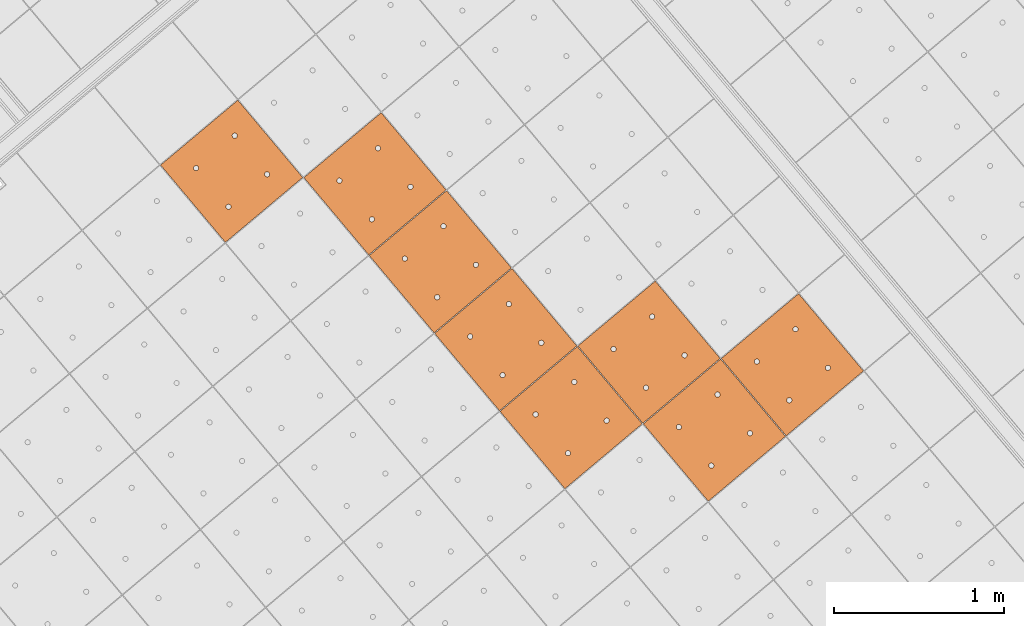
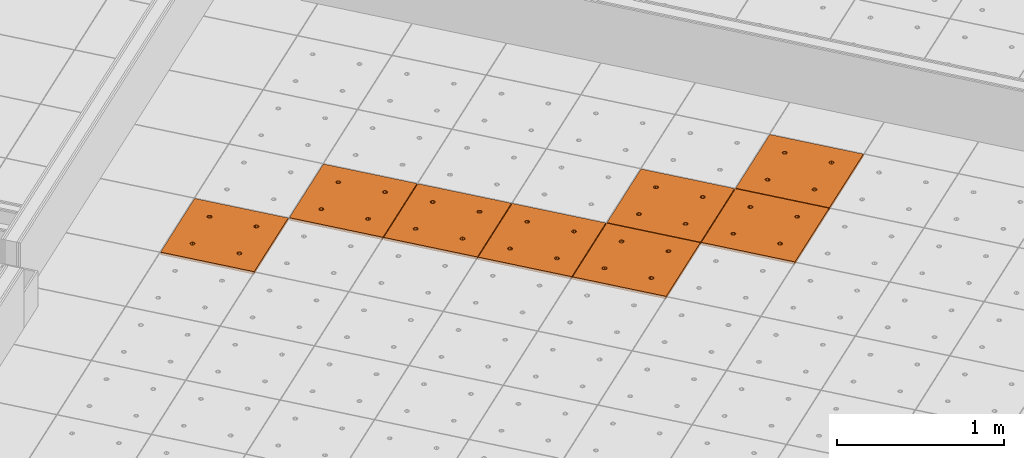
# One storey, part 135 of 338: 8 proxies, 1 element without a shape of its own.
"""IFC2X3 building model written with IfcOpenShell, lengths in millimetres."""

from ifc_helpers import new_model, entity, si_unit, converted_unit, derived_unit, money_unit, direction, frame, origin_with_axes, place, context, subcontext, project, spatial, faceted_brep, source, transform, mapped, material, type_object, type_shapes, element, aggregate, save


model = new_model("IFC2X3")

# Units and contexts
model_context = context("Model", 3, precision=0.01, world=origin_with_axes(), true_north=direction((0.0, 1.0)))
plan_context = context("Plan", 3, precision=0.01, world=origin_with_axes(), true_north=direction((0.0, 1.0)))
body_context = subcontext(model_context, "Body", "Model", "MODEL_VIEW")
ifc_project = project(units=[si_unit("LENGTHUNIT", "METRE", prefix="MILLI"), si_unit("AREAUNIT", "SQUARE_METRE"), si_unit("VOLUMEUNIT", "CUBIC_METRE"), converted_unit("PLANEANGLEUNIT", "DEGREE", entity("IfcPlaneAngleMeasure", 0.0174532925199), si_unit("PLANEANGLEUNIT", "RADIAN"), dimensions=[0, 0, 0, 0, 0, 0, 0]), money_unit("EUR"), converted_unit("TIMEUNIT", "Year", entity("IfcTimeMeasure", 31556926.0), si_unit("TIMEUNIT", "SECOND"), dimensions=[0, 0, 1, 0, 0, 0, 0]), si_unit("MASSUNIT", "GRAM", prefix="KILO"), si_unit("THERMODYNAMICTEMPERATUREUNIT", "DEGREE_CELSIUS"), si_unit("LUMINOUSINTENSITYUNIT", "LUMEN"), si_unit("ENERGYUNIT", "JOULE", prefix="MEGA"), derived_unit("THERMALCONDUCTANCEUNIT", [(si_unit("POWERUNIT", "WATT"), 1), (si_unit("LENGTHUNIT", "METRE"), -1), (si_unit("THERMODYNAMICTEMPERATUREUNIT", "KELVIN"), -1)]), derived_unit("SPECIFICHEATCAPACITYUNIT", [(si_unit("ENERGYUNIT", "JOULE"), 1), (si_unit("MASSUNIT", "GRAM", prefix="KILO"), -1), (si_unit("THERMODYNAMICTEMPERATUREUNIT", "KELVIN"), -1)]), derived_unit("MASSDENSITYUNIT", [(si_unit("MASSUNIT", "GRAM", prefix="KILO"), 1), (si_unit("VOLUMEUNIT", "CUBIC_METRE"), -1)])], contexts=[model_context, plan_context])

# Site, building, storey
site_placement = place(None, origin_with_axes())
site = spatial("IfcSite", under=ifc_project, at=site_placement, Name="Fortuinstraat Woensdrecht", CompositionType="ELEMENT")
building_placement = place(site_placement, origin_with_axes())
building = spatial("IfcBuilding", under=site, at=building_placement, Name="IKC Fortuna", CompositionType="ELEMENT")
storey_placement = place(building_placement, origin_with_axes())
storey = spatial("IfcBuildingStorey", under=building, at=storey_placement, Name="00 begane grond", CompositionType="ELEMENT", Elevation=0.0)

# Covering, proxies
covering_type = type_object("IfcCoveringType", Name="Curtain Wall Type", PredefinedType="CEILING")
covering_placement = place(storey_placement, frame((15150.6418133, -6622.13986243, 4660.0), z_axis=(0.0, 0.0, 1.0), x_axis=(1.0, 0.0, 0.0)))
covering = element("IfcCovering", 1, at=covering_placement, inside=storey, type_object=covering_type, Name="45_Plafondafwerking_P01", PredefinedType="CEILING")
ifc_material = material(Name="Gipsplaat")
building_element_proxy_type = type_object("IfcBuildingElementProxyType", Name="Main Panel 600 x 600 x 20", PredefinedType="NOTDEFINED")
shared_shape = source(origin_with_axes(), body_context, "Body", "Brep", [
    faceted_brep([(2.49999999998, 2.49999999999, -10.0), (300.0, 2.49999999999, -10.0), (300.0, 2.49999999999, 10.0), (2.49999999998, 2.49999999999, 10.0), (2.49999999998, 300.0, -10.0), (2.49999999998, 597.5, -10.0), (300.0, 597.5, -10.0), (597.5, 597.5, -10.0), (597.5, 300.0, -10.0), (597.5, 2.49999999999, -10.0), (166.25, 450.06232995, -10.0), (165.79423259, 452.64711538, -10.0), (164.896546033, 455.11348892, -10.0), (163.58421608, 457.38651108, -10.0), (161.897117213, 459.39711721, -10.0), (159.886511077, 461.08421608, -10.0), (157.613488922, 462.39654603, -10.0), (155.147115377, 463.29423259, -10.0), (152.562329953, 463.75, -10.0), (149.937670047, 463.75, -10.0), (147.352884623, 463.29423259, -10.0), (144.886511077, 462.39654603, -10.0), (142.613488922, 461.08421608, -10.0), (140.602882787, 459.39711721, -10.0), (138.91578392, 457.38651108, -10.0), (137.603453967, 455.11348892, -10.0), (136.705767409, 452.64711538, -10.0), (136.25, 450.06232995, -10.0), (136.25, 448.75, -10.0), (136.25, 447.43767005, -10.0), (136.705767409, 444.85288462, -10.0), (137.603453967, 442.38651108, -10.0), (138.91578392, 440.11348892, -10.0), (140.602882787, 438.10288279, -10.0), (142.613488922, 436.41578392, -10.0), (144.886511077, 435.10345397, -10.0), (147.352884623, 434.20576741, -10.0), (149.937670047, 433.75, -10.0), (152.562329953, 433.75, -10.0), (155.147115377, 434.20576741, -10.0), (157.613488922, 435.10345397, -10.0), (159.886511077, 436.41578392, -10.0), (161.897117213, 438.10288279, -10.0), (163.58421608, 440.11348892, -10.0), (164.896546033, 442.38651108, -10.0), (165.79423259, 444.85288462, -10.0), (166.25, 447.43767005, -10.0), (463.75, 450.06232995, -10.0), (463.29423259, 452.64711538, -10.0), (462.396546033, 455.11348892, -10.0), (461.08421608, 457.38651108, -10.0), (459.397117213, 459.39711721, -10.0), (457.386511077, 461.08421608, -10.0), (455.113488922, 462.39654603, -10.0), (452.647115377, 463.29423259, -10.0), (450.062329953, 463.75, -10.0), (447.437670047, 463.75, -10.0), (444.852884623, 463.29423259, -10.0), (442.386511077, 462.39654603, -10.0), (440.113488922, 461.08421608, -10.0), (438.102882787, 459.39711721, -10.0), (436.41578392, 457.38651108, -10.0), (435.103453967, 455.11348892, -10.0), (434.205767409, 452.64711538, -10.0), (433.75, 450.06232995, -10.0), (433.75, 448.75, -10.0), (433.75, 447.43767005, -10.0), (434.205767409, 444.85288462, -10.0), (435.103453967, 442.38651108, -10.0), (436.41578392, 440.11348892, -10.0), (438.102882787, 438.10288279, -10.0), (440.113488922, 436.41578392, -10.0), (442.386511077, 435.10345397, -10.0), (444.852884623, 434.20576741, -10.0), (447.437670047, 433.75, -10.0), (450.062329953, 433.75, -10.0), (452.647115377, 434.20576741, -10.0), (455.113488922, 435.10345397, -10.0), (457.386511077, 436.41578392, -10.0), (459.397117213, 438.10288279, -10.0), (461.08421608, 440.11348892, -10.0), (462.396546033, 442.38651108, -10.0), (463.29423259, 444.85288462, -10.0), (463.75, 447.43767005, -10.0), (463.75, 152.56232995, -10.0), (463.29423259, 155.14711538, -10.0), (462.396546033, 157.61348892, -10.0), (461.08421608, 159.88651108, -10.0), (459.397117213, 161.89711721, -10.0), (457.386511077, 163.58421608, -10.0), (455.113488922, 164.89654603, -10.0), (452.647115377, 165.79423259, -10.0), (450.062329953, 166.25, -10.0), (447.437670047, 166.25, -10.0), (444.852884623, 165.79423259, -10.0), (442.386511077, 164.89654603, -10.0), (440.113488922, 163.58421608, -10.0), (438.102882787, 161.89711721, -10.0), (436.41578392, 159.88651108, -10.0), (435.103453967, 157.61348892, -10.0), (434.205767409, 155.14711538, -10.0), (433.75, 152.56232995, -10.0), (433.75, 151.25, -10.0), (433.75, 149.93767005, -10.0), (434.205767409, 147.35288462, -10.0), (435.103453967, 144.88651108, -10.0), (436.41578392, 142.61348892, -10.0), (438.102882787, 140.60288279, -10.0), (440.113488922, 138.91578392, -10.0), (442.386511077, 137.60345397, -10.0), (444.852884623, 136.70576741, -10.0), (447.437670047, 136.25, -10.0), (450.062329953, 136.25, -10.0), (452.647115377, 136.70576741, -10.0), (455.113488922, 137.60345397, -10.0), (457.386511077, 138.91578392, -10.0), (459.397117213, 140.60288279, -10.0), (461.08421608, 142.61348892, -10.0), (462.396546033, 144.88651108, -10.0), (463.29423259, 147.35288462, -10.0), (463.75, 149.93767005, -10.0), (166.25, 152.56232995, -10.0), (165.79423259, 155.14711538, -10.0), (164.896546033, 157.61348892, -10.0), (163.58421608, 159.88651108, -10.0), (161.897117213, 161.89711721, -10.0), (159.886511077, 163.58421608, -10.0), (157.613488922, 164.89654603, -10.0), (155.147115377, 165.79423259, -10.0), (152.562329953, 166.25, -10.0), (149.937670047, 166.25, -10.0), (147.352884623, 165.79423259, -10.0), (144.886511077, 164.89654603, -10.0), (142.613488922, 163.58421608, -10.0), (140.602882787, 161.89711721, -10.0), (138.91578392, 159.88651108, -10.0), (137.603453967, 157.61348892, -10.0), (136.705767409, 155.14711538, -10.0), (136.25, 152.56232995, -10.0), (136.25, 151.25, -10.0), (136.25, 149.93767005, -10.0), (136.705767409, 147.35288462, -10.0), (137.603453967, 144.88651108, -10.0), (138.91578392, 142.61348892, -10.0), (140.602882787, 140.60288279, -10.0), (142.613488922, 138.91578392, -10.0), (144.886511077, 137.60345397, -10.0), (147.352884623, 136.70576741, -10.0), (149.937670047, 136.25, -10.0), (152.562329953, 136.25, -10.0), (155.147115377, 136.70576741, -10.0), (157.613488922, 137.60345397, -10.0), (159.886511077, 138.91578392, -10.0), (161.897117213, 140.60288279, -10.0), (163.58421608, 142.61348892, -10.0), (164.896546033, 144.88651108, -10.0), (165.79423259, 147.35288462, -10.0), (166.25, 149.93767005, -10.0), (597.5, 2.49999999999, 10.0), (597.5, 300.0, 10.0), (597.5, 597.5, 10.0), (300.0, 597.5, 10.0), (2.49999999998, 597.5, 10.0), (2.49999999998, 300.0, 10.0), (166.25, 450.06232995, 10.0), (166.25, 447.43767005, 10.0), (165.79423259, 444.85288462, 10.0), (164.896546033, 442.38651108, 10.0), (163.58421608, 440.11348892, 10.0), (161.897117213, 438.10288279, 10.0), (159.886511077, 436.41578392, 10.0), (157.613488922, 435.10345397, 10.0), (155.147115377, 434.20576741, 10.0), (152.562329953, 433.75, 10.0), (149.937670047, 433.75, 10.0), (147.352884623, 434.20576741, 10.0), (144.886511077, 435.10345397, 10.0), (142.613488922, 436.41578392, 10.0), (140.602882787, 438.10288279, 10.0), (138.91578392, 440.11348892, 10.0), (137.603453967, 442.38651108, 10.0), (136.705767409, 444.85288462, 10.0), (136.25, 447.43767005, 10.0), (136.25, 448.75, 10.0), (136.25, 450.06232995, 10.0), (136.705767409, 452.64711538, 10.0), (137.603453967, 455.11348892, 10.0), (138.91578392, 457.38651108, 10.0), (140.602882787, 459.39711721, 10.0), (142.613488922, 461.08421608, 10.0), (144.886511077, 462.39654603, 10.0), (147.352884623, 463.29423259, 10.0), (149.937670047, 463.75, 10.0), (152.562329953, 463.75, 10.0), (155.147115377, 463.29423259, 10.0), (157.613488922, 462.39654603, 10.0), (159.886511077, 461.08421608, 10.0), (161.897117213, 459.39711721, 10.0), (163.58421608, 457.38651108, 10.0), (164.896546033, 455.11348892, 10.0), (165.79423259, 452.64711538, 10.0), (463.75, 450.06232995, 10.0), (463.75, 447.43767005, 10.0), (463.29423259, 444.85288462, 10.0), (462.396546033, 442.38651108, 10.0), (461.08421608, 440.11348892, 10.0), (459.397117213, 438.10288279, 10.0), (457.386511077, 436.41578392, 10.0), (455.113488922, 435.10345397, 10.0), (452.647115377, 434.20576741, 10.0), (450.062329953, 433.75, 10.0), (447.437670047, 433.75, 10.0), (444.852884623, 434.20576741, 10.0), (442.386511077, 435.10345397, 10.0), (440.113488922, 436.41578392, 10.0), (438.102882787, 438.10288279, 10.0), (436.41578392, 440.11348892, 10.0), (435.103453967, 442.38651108, 10.0), (434.205767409, 444.85288462, 10.0), (433.75, 447.43767005, 10.0), (433.75, 448.75, 10.0), (433.75, 450.06232995, 10.0), (434.205767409, 452.64711538, 10.0), (435.103453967, 455.11348892, 10.0), (436.41578392, 457.38651108, 10.0), (438.102882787, 459.39711721, 10.0), (440.113488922, 461.08421608, 10.0), (442.386511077, 462.39654603, 10.0), (444.852884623, 463.29423259, 10.0), (447.437670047, 463.75, 10.0), (450.062329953, 463.75, 10.0), (452.647115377, 463.29423259, 10.0), (455.113488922, 462.39654603, 10.0), (457.386511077, 461.08421608, 10.0), (459.397117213, 459.39711721, 10.0), (461.08421608, 457.38651108, 10.0), (462.396546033, 455.11348892, 10.0), (463.29423259, 452.64711538, 10.0), (463.75, 152.56232995, 10.0), (463.75, 149.93767005, 10.0), (463.29423259, 147.35288462, 10.0), (462.396546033, 144.88651108, 10.0), (461.08421608, 142.61348892, 10.0), (459.397117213, 140.60288279, 10.0), (457.386511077, 138.91578392, 10.0), (455.113488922, 137.60345397, 10.0), (452.647115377, 136.70576741, 10.0), (450.062329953, 136.25, 10.0), (447.437670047, 136.25, 10.0), (444.852884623, 136.70576741, 10.0), (442.386511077, 137.60345397, 10.0), (440.113488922, 138.91578392, 10.0), (438.102882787, 140.60288279, 10.0), (436.41578392, 142.61348892, 10.0), (435.103453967, 144.88651108, 10.0), (434.205767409, 147.35288462, 10.0), (433.75, 149.93767005, 10.0), (433.75, 151.25, 10.0), (433.75, 152.56232995, 10.0), (434.205767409, 155.14711538, 10.0), (435.103453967, 157.61348892, 10.0), (436.41578392, 159.88651108, 10.0), (438.102882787, 161.89711721, 10.0), (440.113488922, 163.58421608, 10.0), (442.386511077, 164.89654603, 10.0), (444.852884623, 165.79423259, 10.0), (447.437670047, 166.25, 10.0), (450.062329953, 166.25, 10.0), (452.647115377, 165.79423259, 10.0), (455.113488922, 164.89654603, 10.0), (457.386511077, 163.58421608, 10.0), (459.397117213, 161.89711721, 10.0), (461.08421608, 159.88651108, 10.0), (462.396546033, 157.61348892, 10.0), (463.29423259, 155.14711538, 10.0), (166.25, 152.56232995, 10.0), (166.25, 149.93767005, 10.0), (165.79423259, 147.35288462, 10.0), (164.896546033, 144.88651108, 10.0), (163.58421608, 142.61348892, 10.0), (161.897117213, 140.60288279, 10.0), (159.886511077, 138.91578392, 10.0), (157.613488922, 137.60345397, 10.0), (155.147115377, 136.70576741, 10.0), (152.562329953, 136.25, 10.0), (149.937670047, 136.25, 10.0), (147.352884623, 136.70576741, 10.0), (144.886511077, 137.60345397, 10.0), (142.613488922, 138.91578392, 10.0), (140.602882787, 140.60288279, 10.0), (138.91578392, 142.61348892, 10.0), (137.603453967, 144.88651108, 10.0), (136.705767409, 147.35288462, 10.0), (136.25, 149.93767005, 10.0), (136.25, 151.25, 10.0), (136.25, 152.56232995, 10.0), (136.705767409, 155.14711538, 10.0), (137.603453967, 157.61348892, 10.0), (138.91578392, 159.88651108, 10.0), (140.602882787, 161.89711721, 10.0), (142.613488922, 163.58421608, 10.0), (144.886511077, 164.89654603, 10.0), (147.352884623, 165.79423259, 10.0), (149.937670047, 166.25, 10.0), (152.562329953, 166.25, 10.0), (155.147115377, 165.79423259, 10.0), (157.613488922, 164.89654603, 10.0), (159.886511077, 163.58421608, 10.0), (161.897117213, 161.89711721, 10.0), (163.58421608, 159.88651108, 10.0), (164.896546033, 157.61348892, 10.0), (165.79423259, 155.14711538, 10.0)], [[[0, 1, 2, 3]], [[0, 4, 5, 6, 7, 8, 9, 1], [10, 11, 12, 13, 14, 15, 16, 17, 18, 19, 20, 21, 22, 23, 24, 25, 26, 27, 28, 29, 30, 31, 32, 33, 34, 35, 36, 37, 38, 39, 40, 41, 42, 43, 44, 45, 46], [47, 48, 49, 50, 51, 52, 53, 54, 55, 56, 57, 58, 59, 60, 61, 62, 63, 64, 65, 66, 67, 68, 69, 70, 71, 72, 73, 74, 75, 76, 77, 78, 79, 80, 81, 82, 83], [84, 85, 86, 87, 88, 89, 90, 91, 92, 93, 94, 95, 96, 97, 98, 99, 100, 101, 102, 103, 104, 105, 106, 107, 108, 109, 110, 111, 112, 113, 114, 115, 116, 117, 118, 119, 120], [121, 122, 123, 124, 125, 126, 127, 128, 129, 130, 131, 132, 133, 134, 135, 136, 137, 138, 139, 140, 141, 142, 143, 144, 145, 146, 147, 148, 149, 150, 151, 152, 153, 154, 155, 156, 157]], [[1, 9, 158, 2]], [[3, 2, 158, 159, 160, 161, 162, 163], [164, 165, 166, 167, 168, 169, 170, 171, 172, 173, 174, 175, 176, 177, 178, 179, 180, 181, 182, 183, 184, 185, 186, 187, 188, 189, 190, 191, 192, 193, 194, 195, 196, 197, 198, 199, 200], [201, 202, 203, 204, 205, 206, 207, 208, 209, 210, 211, 212, 213, 214, 215, 216, 217, 218, 219, 220, 221, 222, 223, 224, 225, 226, 227, 228, 229, 230, 231, 232, 233, 234, 235, 236, 237], [238, 239, 240, 241, 242, 243, 244, 245, 246, 247, 248, 249, 250, 251, 252, 253, 254, 255, 256, 257, 258, 259, 260, 261, 262, 263, 264, 265, 266, 267, 268, 269, 270, 271, 272, 273, 274], [275, 276, 277, 278, 279, 280, 281, 282, 283, 284, 285, 286, 287, 288, 289, 290, 291, 292, 293, 294, 295, 296, 297, 298, 299, 300, 301, 302, 303, 304, 305, 306, 307, 308, 309, 310, 311]], [[4, 0, 3, 163]], [[5, 4, 163, 162]], [[6, 5, 162, 161]], [[7, 6, 161, 160]], [[8, 7, 160, 159]], [[9, 8, 159, 158]], [[11, 10, 164, 200]], [[12, 11, 200, 199]], [[13, 12, 199, 198]], [[14, 13, 198, 197]], [[15, 14, 197, 196]], [[16, 15, 196, 195]], [[17, 16, 195, 194]], [[18, 17, 194, 193]], [[19, 18, 193, 192]], [[20, 19, 192, 191]], [[21, 20, 191, 190]], [[22, 21, 190, 189]], [[23, 22, 189, 188]], [[24, 23, 188, 187]], [[25, 24, 187, 186]], [[26, 25, 186, 185]], [[27, 26, 185, 184]], [[28, 27, 184, 183]], [[29, 28, 183, 182]], [[30, 29, 182, 181]], [[31, 30, 181, 180]], [[32, 31, 180, 179]], [[33, 32, 179, 178]], [[34, 33, 178, 177]], [[35, 34, 177, 176]], [[36, 35, 176, 175]], [[37, 36, 175, 174]], [[38, 37, 174, 173]], [[39, 38, 173, 172]], [[40, 39, 172, 171]], [[41, 40, 171, 170]], [[42, 41, 170, 169]], [[43, 42, 169, 168]], [[44, 43, 168, 167]], [[45, 44, 167, 166]], [[46, 45, 166, 165]], [[10, 46, 165, 164]], [[48, 47, 201, 237]], [[49, 48, 237, 236]], [[50, 49, 236, 235]], [[51, 50, 235, 234]], [[52, 51, 234, 233]], [[53, 52, 233, 232]], [[54, 53, 232, 231]], [[55, 54, 231, 230]], [[56, 55, 230, 229]], [[57, 56, 229, 228]], [[58, 57, 228, 227]], [[59, 58, 227, 226]], [[60, 59, 226, 225]], [[61, 60, 225, 224]], [[62, 61, 224, 223]], [[63, 62, 223, 222]], [[64, 63, 222, 221]], [[65, 64, 221, 220]], [[66, 65, 220, 219]], [[67, 66, 219, 218]], [[68, 67, 218, 217]], [[69, 68, 217, 216]], [[70, 69, 216, 215]], [[71, 70, 215, 214]], [[72, 71, 214, 213]], [[73, 72, 213, 212]], [[74, 73, 212, 211]], [[75, 74, 211, 210]], [[76, 75, 210, 209]], [[77, 76, 209, 208]], [[78, 77, 208, 207]], [[79, 78, 207, 206]], [[80, 79, 206, 205]], [[81, 80, 205, 204]], [[82, 81, 204, 203]], [[83, 82, 203, 202]], [[47, 83, 202, 201]], [[85, 84, 238, 274]], [[86, 85, 274, 273]], [[87, 86, 273, 272]], [[88, 87, 272, 271]], [[89, 88, 271, 270]], [[90, 89, 270, 269]], [[91, 90, 269, 268]], [[92, 91, 268, 267]], [[93, 92, 267, 266]], [[94, 93, 266, 265]], [[95, 94, 265, 264]], [[96, 95, 264, 263]], [[97, 96, 263, 262]], [[98, 97, 262, 261]], [[99, 98, 261, 260]], [[100, 99, 260, 259]], [[101, 100, 259, 258]], [[102, 101, 258, 257]], [[103, 102, 257, 256]], [[104, 103, 256, 255]], [[105, 104, 255, 254]], [[106, 105, 254, 253]], [[107, 106, 253, 252]], [[108, 107, 252, 251]], [[109, 108, 251, 250]], [[110, 109, 250, 249]], [[111, 110, 249, 248]], [[112, 111, 248, 247]], [[113, 112, 247, 246]], [[114, 113, 246, 245]], [[115, 114, 245, 244]], [[116, 115, 244, 243]], [[117, 116, 243, 242]], [[118, 117, 242, 241]], [[119, 118, 241, 240]], [[120, 119, 240, 239]], [[84, 120, 239, 238]], [[122, 121, 275, 311]], [[123, 122, 311, 310]], [[124, 123, 310, 309]], [[125, 124, 309, 308]], [[126, 125, 308, 307]], [[127, 126, 307, 306]], [[128, 127, 306, 305]], [[129, 128, 305, 304]], [[130, 129, 304, 303]], [[131, 130, 303, 302]], [[132, 131, 302, 301]], [[133, 132, 301, 300]], [[134, 133, 300, 299]], [[135, 134, 299, 298]], [[136, 135, 298, 297]], [[137, 136, 297, 296]], [[138, 137, 296, 295]], [[139, 138, 295, 294]], [[140, 139, 294, 293]], [[141, 140, 293, 292]], [[142, 141, 292, 291]], [[143, 142, 291, 290]], [[144, 143, 290, 289]], [[145, 144, 289, 288]], [[146, 145, 288, 287]], [[147, 146, 287, 286]], [[148, 147, 286, 285]], [[149, 148, 285, 284]], [[150, 149, 284, 283]], [[151, 150, 283, 282]], [[152, 151, 282, 281]], [[153, 152, 281, 280]], [[154, 153, 280, 279]], [[155, 154, 279, 278]], [[156, 155, 278, 277]], [[157, 156, 277, 276]], [[121, 157, 276, 275]]]),
])
type_shapes(building_element_proxy_type, [shared_shape])
proxy_1_placement = place(covering_placement, frame((-492.929769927, -2064.95684734, 0.0), z_axis=(0.0, 0.0, 1.0), x_axis=(1.0, 0.0, 0.0)))
proxy_1 = element("IfcBuildingElementProxy", 2, at=proxy_1_placement, type_object=building_element_proxy_type, material=ifc_material, Name="__600x648 Rockfon Krios", context=body_context, shape_type="MappedRepresentation", body=[
    mapped(shared_shape, transform((36.9769427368, 422.649625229, 0.0), x_axis=(-0.766044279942, -0.642787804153, 0.0), y_axis=(0.642787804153, -0.766044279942, 0.0), z_axis=(0.0, 0.0, 1.0))),
])
proxy_2_placement = place(covering_placement, frame((-1338.22902038, -1991.00296187, 0.0), z_axis=(0.0, 0.0, 1.0), x_axis=(1.0, 0.0, 0.0)))
proxy_2 = element("IfcBuildingElementProxy", 3, at=proxy_2_placement, type_object=building_element_proxy_type, material=ifc_material, Name="__600x651 Rockfon Krios", context=body_context, shape_type="MappedRepresentation", body=[
    mapped(shared_shape, transform((36.9769427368, 422.649625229, 0.0), x_axis=(-0.766044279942, -0.642787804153, 0.0), y_axis=(0.642787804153, -0.766044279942, 0.0), z_axis=(0.0, 0.0, 1.0))),
])
proxy_3_placement = place(covering_placement, frame((1969.01409597, -3132.11775422, 0.0), z_axis=(0.0, 0.0, 1.0), x_axis=(1.0, 0.0, 0.0)))
proxy_3 = element("IfcBuildingElementProxy", 4, at=proxy_3_placement, type_object=building_element_proxy_type, material=ifc_material, Name="__600x693 Rockfon Krios", context=body_context, shape_type="MappedRepresentation", body=[
    mapped(shared_shape, transform((36.9769427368, 422.649625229, 0.0), x_axis=(-0.766044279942, -0.642787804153, 0.0), y_axis=(0.642787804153, -0.766044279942, 0.0), z_axis=(0.0, 0.0, 1.0))),
])
proxy_4_placement = place(covering_placement, frame((1123.71484551, -3058.16386874, 0.0), z_axis=(0.0, 0.0, 1.0), x_axis=(1.0, 0.0, 0.0)))
proxy_4 = element("IfcBuildingElementProxy", 5, at=proxy_4_placement, type_object=building_element_proxy_type, material=ifc_material, Name="__600x701 Rockfon Krios", context=body_context, shape_type="MappedRepresentation", body=[
    mapped(shared_shape, transform((36.9769427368, 422.649625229, 0.0), x_axis=(-0.766044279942, -0.642787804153, 0.0), y_axis=(0.642787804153, -0.766044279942, 0.0), z_axis=(0.0, 0.0, 1.0))),
])
proxy_5_placement = place(covering_placement, frame((1509.38752801, -3517.79043671, 0.0), z_axis=(0.0, 0.0, 1.0), x_axis=(1.0, 0.0, 0.0)))
proxy_5 = element("IfcBuildingElementProxy", 6, at=proxy_5_placement, type_object=building_element_proxy_type, material=ifc_material, Name="__600x702 Rockfon Krios", context=body_context, shape_type="MappedRepresentation", body=[
    mapped(shared_shape, transform((36.9769427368, 422.649625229, 0.0), x_axis=(-0.766044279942, -0.642787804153, 0.0), y_axis=(0.642787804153, -0.766044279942, 0.0), z_axis=(0.0, 0.0, 1.0))),
])
proxy_6_placement = place(covering_placement, frame((-107.257087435, -2524.58341531, 0.0), z_axis=(0.0, 0.0, 1.0), x_axis=(1.0, 0.0, 0.0)))
proxy_6 = element("IfcBuildingElementProxy", 7, at=proxy_6_placement, type_object=building_element_proxy_type, material=ifc_material, Name="__600x708 Rockfon Krios", context=body_context, shape_type="MappedRepresentation", body=[
    mapped(shared_shape, transform((36.9769427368, 422.649625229, 0.0), x_axis=(-0.766044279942, -0.642787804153, 0.0), y_axis=(0.642787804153, -0.766044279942, 0.0), z_axis=(0.0, 0.0, 1.0))),
])
proxy_7_placement = place(covering_placement, frame((278.415595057, -2984.20998327, 0.0), z_axis=(0.0, 0.0, 1.0), x_axis=(1.0, 0.0, 0.0)))
proxy_7 = element("IfcBuildingElementProxy", 8, at=proxy_7_placement, type_object=building_element_proxy_type, material=ifc_material, Name="__600x709 Rockfon Krios", context=body_context, shape_type="MappedRepresentation", body=[
    mapped(shared_shape, transform((36.9769427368, 422.649625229, 0.0), x_axis=(-0.766044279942, -0.642787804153, 0.0), y_axis=(0.642787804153, -0.766044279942, 0.0), z_axis=(0.0, 0.0, 1.0))),
])
proxy_8_placement = place(covering_placement, frame((664.088277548, -3443.83655124, 0.0), z_axis=(0.0, 0.0, 1.0), x_axis=(1.0, 0.0, 0.0)))
proxy_8 = element("IfcBuildingElementProxy", 9, at=proxy_8_placement, type_object=building_element_proxy_type, material=ifc_material, Name="__600x710 Rockfon Krios", context=body_context, shape_type="MappedRepresentation", body=[
    mapped(shared_shape, transform((36.9769427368, 422.649625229, 0.0), x_axis=(-0.766044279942, -0.642787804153, 0.0), y_axis=(0.642787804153, -0.766044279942, 0.0), z_axis=(0.0, 0.0, 1.0))),
])
aggregate(covering, [proxy_1, proxy_2, proxy_3, proxy_4, proxy_5, proxy_6, proxy_7, proxy_8])

save(model, "model.ifc")
